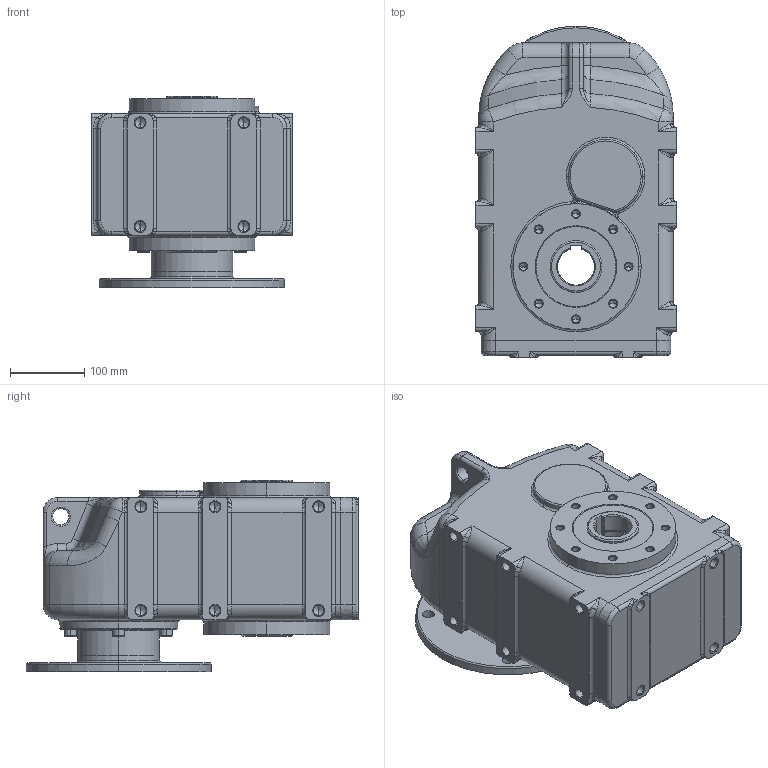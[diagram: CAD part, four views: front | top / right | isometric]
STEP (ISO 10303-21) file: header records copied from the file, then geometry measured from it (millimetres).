
FILE_DESCRIPTION (( 'STEP AP214' ), '1' );
FILE_NAME ('tnc42-f215-ap100.STEP', '2009-09-21T10:47:53', ( '' ), ( '' ), 'SwSTEP 2.0', 'SolidWorks 2003240', '' );
FILE_SCHEMA (( 'AUTOMOTIVE_DESIGN' ));
Length unit declared in the file: millimetre
Products named in the file (4): Skøíò TNC4_Skøíò TNC42 AP100; tnc42-f215-ap100; N021143_Šroub s vnitøním šestihranem DIN 912 - M8 x 25; Pøíruba MRT120 kulatá _180-215-250
Assembly tree (8 placements, depth 2):
  tnc42-f215-ap100
    N021143_Šroub s vnitøním šestihranem DIN 912 - M8 x 25  x6
    Pøíruba MRT120 kulatá _180-215-250
    Skøíò TNC4_Skøíò TNC42 AP100
Bounding box: 270 x 448 x 258 mm (x, y, z)
Volume: 18262981.1 mm3; surface area: 673335.8 mm2
Topology: 8 solids, 8 shells, 968 faces, 2225 edges, 1236 vertices
Faces by surface type: cylinder 275, cone 271, plane 175, torus 159, bspline 84, sphere 4
Entity records: 103282 total; most frequent: CARTESIAN_POINT 83507, DIRECTION 4261, ORIENTED_EDGE 3742, EDGE_CURVE 1871, AXIS2_PLACEMENT_3D 1776, VERTEX_POINT 1106, CIRCLE 1011, EDGE_LOOP 931
